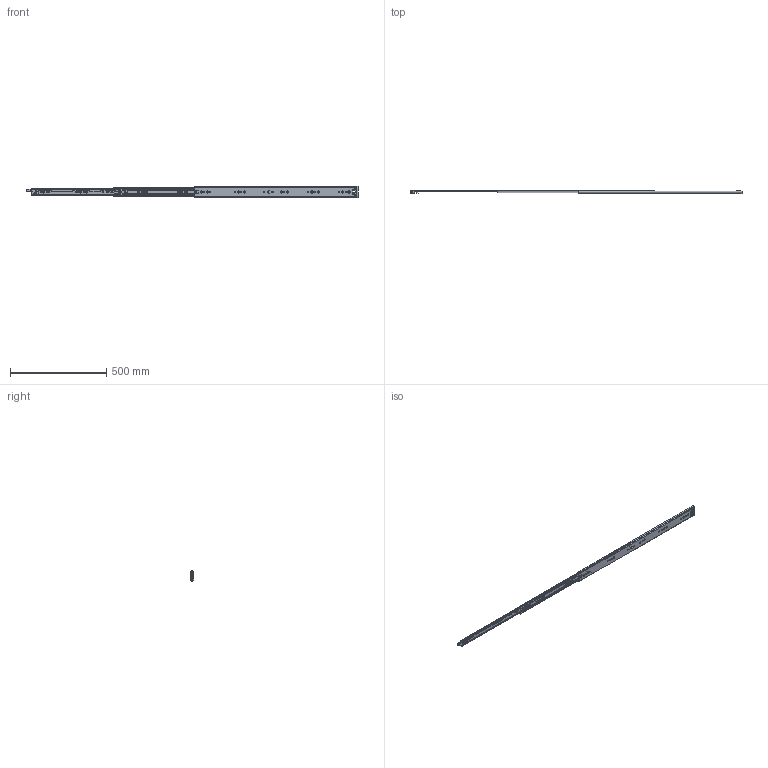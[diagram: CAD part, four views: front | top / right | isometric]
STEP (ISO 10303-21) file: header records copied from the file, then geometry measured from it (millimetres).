
FILE_DESCRIPTION((''),'2;1');
FILE_NAME('KP-57-01ZUZHUANGTU-34YOU_ASM','2023-04-03T',('jishu015'),(''),'PRO/ENGINEER BY PARAMETRIC TECHNOLOGY CORPORATION, 2010280','PRO/ENGINEER BY PARAMETRIC TECHNOLOGY CORPORATION, 2010280','');
FILE_SCHEMA(('CONFIG_CONTROL_DESIGN'));
Products named in the file (21): KP-57-01WEIKE-18__________; 1057WEIJIAO__________; WAIKE_________ASM; KP-57-01ZHONGGUI-18__________; ZHONGGUIPEIJIAN-11________; ZHONGGUISUOKOU-11________; KP-57-01ZHONGGUI-18___________ASM; 1057XIAOZHUJIA__________; 1057-5-6GANZHU__________; 1057XIAOZHUJIA-14GE___________ASM; KP-57-01NEIGUI-18__________; PJ-57-08________; DIAOPIAN-11________; 50XINSUOKOU-1________; 1053-3SBANJI122______; JIAO11______; KP-57-01NEIGUI-18___________ASM; 1053ZHUTIAO-175______________; 53-5-6GANZHU______________; 1053ZHUTIAO-175MM_________ASM; KP-57-01ZUZHUANGTU-34YOU_ASM
Assembly tree (94 placements, depth 3):
  KP-57-01ZUZHUANGTU-34YOU_ASM
    WAIKE_________ASM
      KP-57-01WEIKE-18__________
      1057WEIJIAO__________
    KP-57-01ZHONGGUI-18___________ASM
      KP-57-01ZHONGGUI-18__________
      ZHONGGUIPEIJIAN-11________
      ZHONGGUISUOKOU-11________
    1057XIAOZHUJIA-14GE___________ASM
      1057XIAOZHUJIA__________
      1057-5-6GANZHU__________  x60
    KP-57-01NEIGUI-18___________ASM
      KP-57-01NEIGUI-18__________
      PJ-57-08________
      DIAOPIAN-11________
      50XINSUOKOU-1________
      1053-3SBANJI122______
      JIAO11______
    1053ZHUTIAO-175MM_________ASM  x2
      1053ZHUTIAO-175______________
      53-5-6GANZHU______________
Bounding box: 1726.95 x 19 x 57.67 mm (x, y, z)
Volume: 371886.6 mm3; surface area: 405637 mm2
Topology: 106 solids, 106 shells, 2682 faces, 7770 edges, 4857 vertices
Faces by surface type: cylinder 1159, plane 1087, sphere 191, bspline 119, cone 84, extrusion 23, torus 19
Entity records: 86732 total; most frequent: CARTESIAN_POINT 21354, ORIENTED_EDGE 13864, DIRECTION 13448, EDGE_CURVE 6932, AXIS2_PLACEMENT_3D 4636, VERTEX_POINT 4485, VECTOR 4176, LINE 4153
